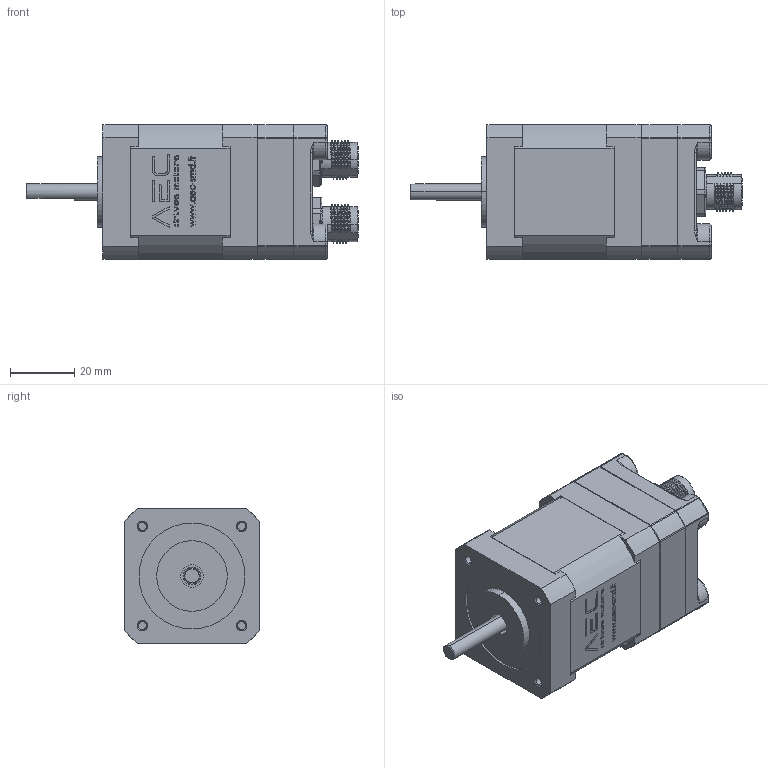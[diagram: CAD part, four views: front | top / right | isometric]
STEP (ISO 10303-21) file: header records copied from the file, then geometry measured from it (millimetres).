
FILE_DESCRIPTION (( 'STEP AP214' ), '1' );
FILE_NAME ('M42SH47-TO0512L05C.STEP', '2025-05-17T07:46:53', ( '' ), ( '' ), 'SwSTEP 2.0', 'SolidWorks 2019', '' );
FILE_SCHEMA (( 'AUTOMOTIVE_DESIGN' ));
Length unit declared in the file: millimetre
Products named in the file (1): M42SH47-TO0512L05C
Bounding box: 103.5 x 42 x 42 mm (x, y, z)
Volume: 65651.1 mm3; surface area: 56579.7 mm2
Topology: 33 solids, 33 shells, 4425 faces, 11315 edges, 7150 vertices
Faces by surface type: plane 1624, bspline 1072, cylinder 974, torus 514, cone 199, sphere 42
Entity records: 284321 total; most frequent: CARTESIAN_POINT 139366, ORIENTED_EDGE 22462, DIRECTION 18513, EDGE_CURVE 11231, VERTEX_POINT 7150, AXIS2_PLACEMENT_3D 6641, VECTOR 5231, LINE 5231
